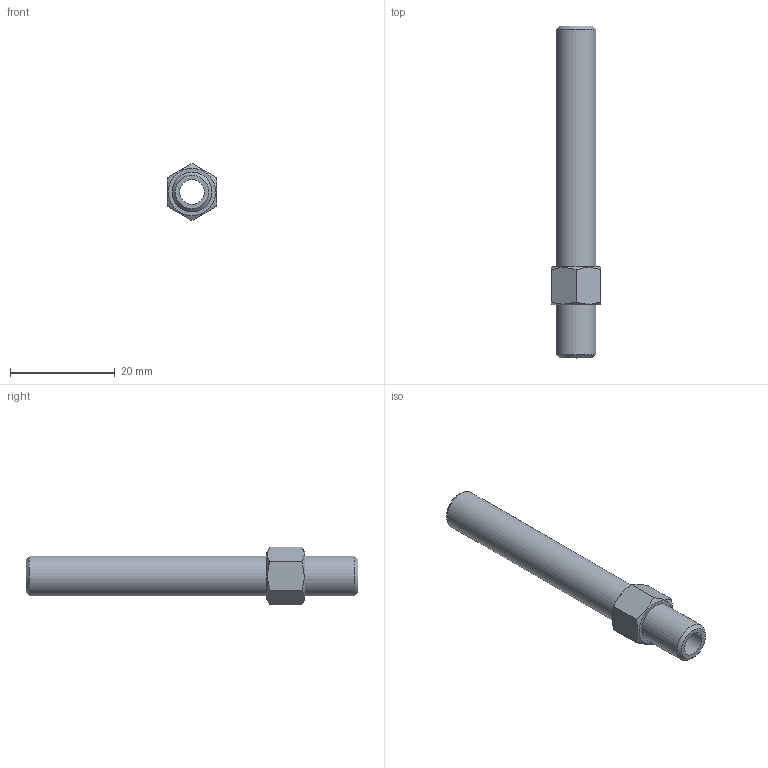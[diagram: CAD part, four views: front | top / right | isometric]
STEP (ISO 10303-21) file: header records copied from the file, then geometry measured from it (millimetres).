
FILE_DESCRIPTION(/* description */ (''),/* implementation_level */ '2;1');
FILE_NAME(/* name */ 'C:/Users/drich/Desktop/APN16-2-1_2 v1.step',/* time_stamp */ '2019-12-27T17:48:56-06:00',/* author */ (''),/* organization */ (''),/* preprocessor_version */ 'ST-DEVELOPER v18',/* originating_system */ 'Autodesk Translation Framework v8.12.0.6',/* authorisation */ '');
FILE_SCHEMA (('AUTOMOTIVE_DESIGN { 1 0 10303 214 3 1 1 }'));
Length unit declared in the file: inch
Products named in the file (1): APN16-2-1_2
Bounding box: 9.5 x 63.5 x 10.97 mm (x, y, z)
Volume: 2003.5 mm3; surface area: 2615.3 mm2
Topology: 1 solids, 1 shells, 17 faces, 39 edges, 26 vertices
Faces by surface type: plane 10, cone 4, cylinder 3
Full cylindrical faces by diameter (mm): 4.724 x1, 7.616 x2
Entity records: 521 total; most frequent: CARTESIAN_POINT 107, ORIENTED_EDGE 78, DIRECTION 77, EDGE_CURVE 39, AXIS2_PLACEMENT_3D 32, VERTEX_POINT 26, EDGE_LOOP 21, FACE_OUTER_BOUND 17
